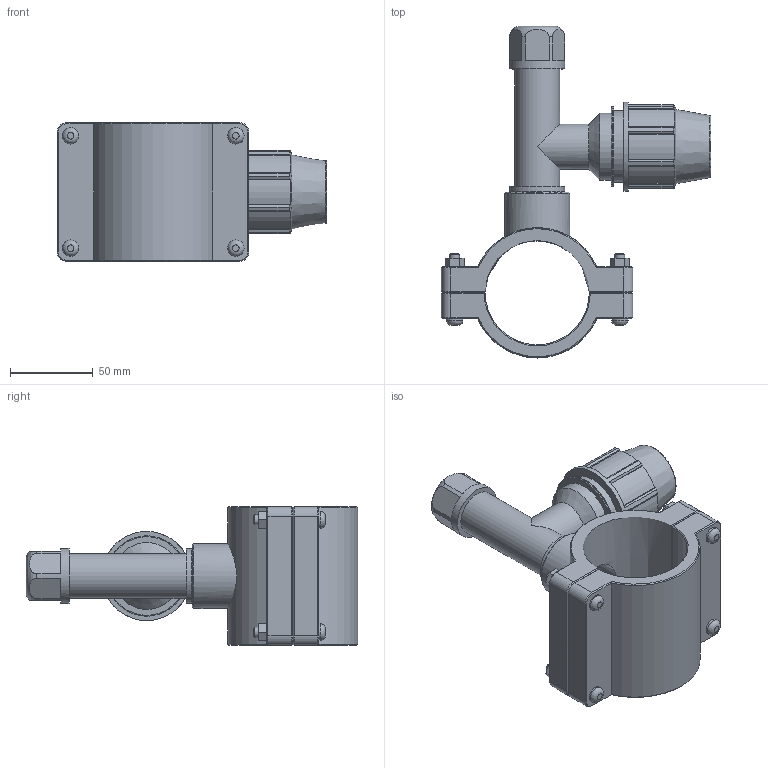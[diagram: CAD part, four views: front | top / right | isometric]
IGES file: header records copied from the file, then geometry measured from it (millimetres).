
Global section: file name: 165400063025_165406063025.ipt; native system: Autodesk Inventor 2015; preprocessor: unknown; author: KIM; date: 20170618.093840; units: millimetre
Bounding box: 163 x 200.88 x 84 mm (x, y, z)
Volume: 377096.2 mm3; surface area: 104701.1 mm2
Topology: 1 solids, 1 shells, 232 faces, 582 edges, 378 vertices
Faces by surface type: plane 145, cylinder 42, cone 28, revolution 17
Full cylindrical faces by diameter (mm): 6 x4, 10 x8, 27.262 x2, 30.291 x1, 33.32 x2, 39.378 x1, 40.5 x1, 43.2 x1, 48.6 x1, 54 x1
